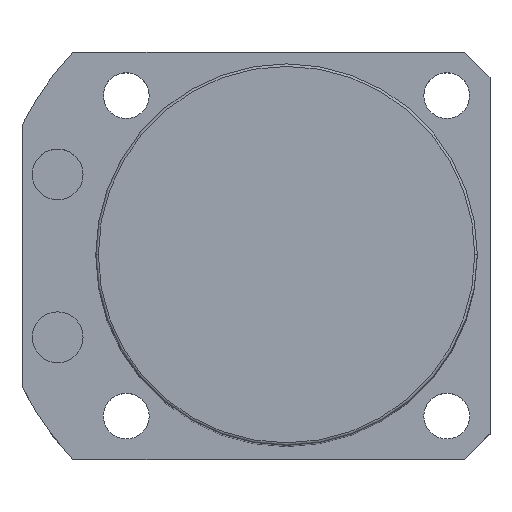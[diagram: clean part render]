
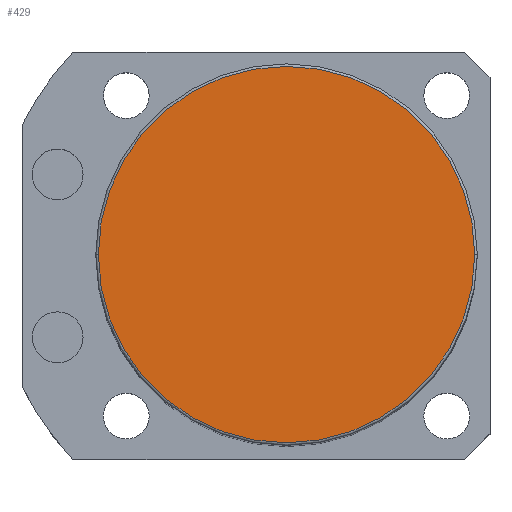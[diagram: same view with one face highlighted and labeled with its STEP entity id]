
A CAD part, top view. The second image highlights one B-rep face of the part: STEP entity #429.
In plain terms, the highlighted planar face has unit normal (0, 0, 1).
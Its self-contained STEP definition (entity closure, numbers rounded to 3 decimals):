
#16 = CIRCLE ( 'NONE', #2188, 37. ) ;
#129 = VERTEX_POINT ( 'NONE', #1885 ) ;
#131 = VERTEX_POINT ( 'NONE', #2285 ) ;
#247 = DIRECTION ( 'NONE',  ( 0., 0., 1. ) ) ;
#303 = ORIENTED_EDGE ( 'NONE', *, *, #2254, .T. ) ;
#429 = ADVANCED_FACE ( 'NONE', ( #993 ), #1443, .T. ) ;
#574 = AXIS2_PLACEMENT_3D ( 'NONE', #863, #701, #1079 ) ;
#603 = CIRCLE ( 'NONE', #2124, 37. ) ;
#679 = DIRECTION ( 'NONE',  ( 1., 0., 0. ) ) ;
#701 = DIRECTION ( 'NONE',  ( 0., 0., 1. ) ) ;
#705 = EDGE_CURVE ( 'NONE', #129, #131, #16, .T. ) ;
#860 = CARTESIAN_POINT ( 'NONE',  ( 0., 0., 160.5 ) ) ;
#863 = CARTESIAN_POINT ( 'NONE',  ( 0., 0., 160.5 ) ) ;
#993 = FACE_OUTER_BOUND ( 'NONE', #1387, .T. ) ;
#1079 = DIRECTION ( 'NONE',  ( 1., 0., 0. ) ) ;
#1089 = ORIENTED_EDGE ( 'NONE', *, *, #705, .T. ) ;
#1158 = DIRECTION ( 'NONE',  ( 0., 0., 1. ) ) ;
#1203 = CARTESIAN_POINT ( 'NONE',  ( 0., 0., 160.5 ) ) ;
#1379 = DIRECTION ( 'NONE',  ( 1., 0., 0. ) ) ;
#1387 = EDGE_LOOP ( 'NONE', ( #1089, #303 ) ) ;
#1443 = PLANE ( 'NONE',  #574 ) ;
#1885 = CARTESIAN_POINT ( 'NONE',  ( 37., 0., 160.5 ) ) ;
#2124 = AXIS2_PLACEMENT_3D ( 'NONE', #860, #1158, #679 ) ;
#2188 = AXIS2_PLACEMENT_3D ( 'NONE', #1203, #247, #1379 ) ;
#2254 = EDGE_CURVE ( 'NONE', #131, #129, #603, .T. ) ;
#2285 = CARTESIAN_POINT ( 'NONE',  ( -37., 0., 160.5 ) ) ;
